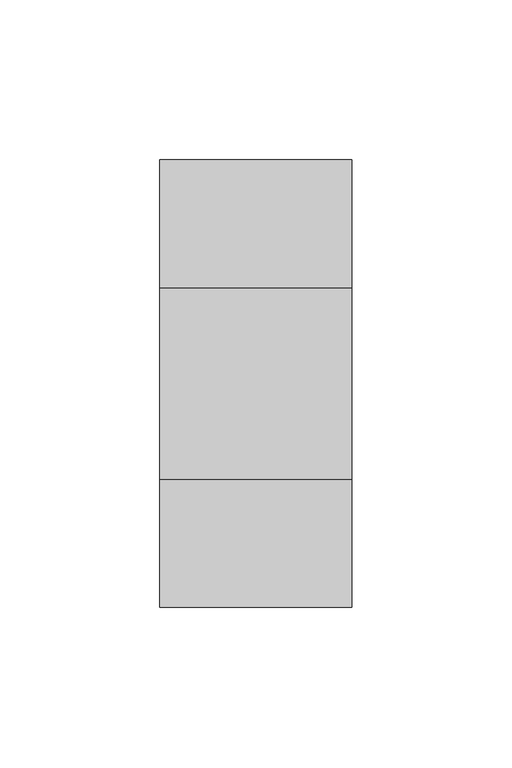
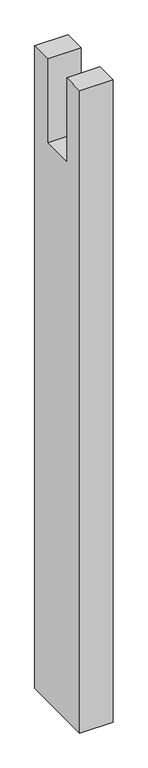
"""IFC4 building model written with IfcOpenShell, lengths in millimetres: proxy geometry, Modelos genéricos 52 : Modelos genéricos 11."""

import ifcopenshell
import ifcopenshell.guid

model = None  # the IFC model being written
_history = None  # IfcOwnerHistory: only IFC2X3 demands one
_inside = {}  # id of a spatial element -> (the spatial element, [elements in it])
_under = {}  # id of a project, library or spatial element -> (it, [spatial elements below it])
_declared = {}  # id of a project -> (the project, [libraries it declares])
_typed = {}  # id of a type object -> (the type object, [elements of that type])
_made_of = {}  # id of a material, layer set ... -> (it, [elements and type objects made of it])


def new_model(schema):
    """Start an empty IFC model of exactly this schema.

    Asked for "IFC4X3", IfcOpenShell would pick the latest addendum, in which some entities
    have other attributes; the version numbers below select the first issue.
    IFC2X3 requires an IfcOwnerHistory on every rooted entity: one is made here for all.
    """
    global model, _history
    if schema == "IFC4X3":
        model = ifcopenshell.file(schema_version=(4, 3, 0, 0))
    else:
        model = ifcopenshell.file(schema=schema)
    _inside.clear()
    _under.clear()
    _declared.clear()
    _typed.clear()
    _made_of.clear()
    _history = None
    if model.schema == "IFC2X3":
        org = make("IfcOrganization", Name="unknown")
        user = make(
            "IfcPersonAndOrganization",
            ThePerson=make("IfcPerson", FamilyName="unknown"),
            TheOrganization=org,
        )
        app = make(
            "IfcApplication",
            ApplicationDeveloper=org,
            Version="unknown",
            ApplicationFullName="unknown",
            ApplicationIdentifier="unknown",
        )
        _history = make(
            "IfcOwnerHistory",
            OwningUser=user,
            OwningApplication=app,
            ChangeAction="ADDED",
            CreationDate=0,
        )
    return model


def make(cls, **values):
    """One entity of the class cls with the attributes given. An attribute that is None is left unset."""
    return model.create_entity(
        cls, **{name: value for name, value in values.items() if value is not None}
    )


def rooted(cls, **values):
    """An entity with a GlobalId (a new one), such as an element, a storey or a relation."""
    return make(cls, GlobalId=ifcopenshell.guid.new(), OwnerHistory=_history, **values)


def si_unit(unit_type, name, prefix=None):
    """IfcSIUnit, for example si_unit("LENGTHUNIT", "METRE", prefix="MILLI")."""
    return make("IfcSIUnit", UnitType=unit_type, Prefix=prefix, Name=name)


def assignment(units):
    """IfcUnitAssignment: the units of a project."""
    return None if units is None else make("IfcUnitAssignment", Units=units)


def point(xyz):
    """IfcCartesianPoint."""
    return None if xyz is None else make("IfcCartesianPoint", Coordinates=xyz)


def direction(xyz):
    """IfcDirection."""
    return None if xyz is None else make("IfcDirection", DirectionRatios=xyz)


def frame(location, z_axis=None, x_axis=None):
    """IfcAxis2Placement3D, a coordinate frame: its origin and axes. An axis left out is left unset."""
    return make(
        "IfcAxis2Placement3D",
        Location=point(location),
        Axis=direction(z_axis),
        RefDirection=direction(x_axis),
    )


def origin():
    """The frame at (0, 0, 0) with its axes left unset."""
    return frame((0.0, 0.0, 0.0))


def place(relative_to, where):
    """IfcLocalPlacement: puts the frame where relative to a parent placement (None: the world)."""
    return make(
        "IfcLocalPlacement", PlacementRelTo=relative_to, RelativePlacement=where
    )


def context(
    kind, dimensions, precision=None, world=None, true_north=None, identifier=None
):
    """IfcGeometricRepresentationContext, for example the 3D "Model" context."""
    return make(
        "IfcGeometricRepresentationContext",
        ContextIdentifier=identifier,
        ContextType=kind,
        CoordinateSpaceDimension=dimensions,
        Precision=precision,
        WorldCoordinateSystem=world,
        TrueNorth=true_north,
    )


def project(units=None, contexts=None):
    """IfcProject with its units and contexts."""
    return rooted(
        "IfcProject",
        Name="project",
        RepresentationContexts=contexts,
        UnitsInContext=assignment(units),
    )


def spatial(cls, under=None, at=None, **own):
    """A site, building, storey or space (cls), placed at a placement, below another one or the project."""
    s = rooted(cls, ObjectPlacement=at, **own)
    if under is not None:
        _under.setdefault(under.id(), (under, []))[1].append(s)
    return s


def polyline(points):
    """IfcPolyline through the points."""
    return make("IfcPolyline", Points=[point(p) for p in points])


def outline(outer, holes=None, kind="AREA"):
    """IfcArbitraryClosedProfileDef: a profile drawn as a closed curve; with holes, ...WithVoids."""
    if holes is None:
        return make("IfcArbitraryClosedProfileDef", ProfileType=kind, OuterCurve=outer)
    return make(
        "IfcArbitraryProfileDefWithVoids",
        ProfileType=kind,
        OuterCurve=outer,
        InnerCurves=holes,
    )


def extrude(swept, where, along, depth):
    """IfcExtrudedAreaSolid: the profile swept, set in the frame where, extruded along a direction by depth."""
    return make(
        "IfcExtrudedAreaSolid",
        SweptArea=swept,
        Position=where,
        ExtrudedDirection=direction(along),
        Depth=depth,
    )


def shape(context_of_items, identifier, shape_type, items):
    """IfcShapeRepresentation: the items that make up one representation, for example the "Body"."""
    return make(
        "IfcShapeRepresentation",
        ContextOfItems=context_of_items,
        RepresentationIdentifier=identifier,
        RepresentationType=shape_type,
        Items=items,
    )


def source(mapping_origin, context_of_items, identifier, shape_type, items):
    """IfcRepresentationMap: a shape defined once, which mapped items show again and again."""
    return make(
        "IfcRepresentationMap",
        MappingOrigin=mapping_origin,
        MappedRepresentation=shape(context_of_items, identifier, shape_type, items),
    )


def transform(
    local_origin,
    x_axis=None,
    y_axis=None,
    z_axis=None,
    scale=None,
    scale2=None,
    scale3=None,
    uniform=True,
):
    """IfcCartesianTransformationOperator3D, or its non-uniform kind. x_axis, y_axis, z_axis: its Axis1, 2, 3."""
    if uniform:
        return make(
            "IfcCartesianTransformationOperator3D",
            Axis1=direction(x_axis),
            Axis2=direction(y_axis),
            LocalOrigin=point(local_origin),
            Scale=scale,
            Axis3=direction(z_axis),
        )
    return make(
        "IfcCartesianTransformationOperator3DnonUniform",
        Axis1=direction(x_axis),
        Axis2=direction(y_axis),
        LocalOrigin=point(local_origin),
        Scale=scale,
        Axis3=direction(z_axis),
        Scale2=scale2,
        Scale3=scale3,
    )


def mapped(mapping_source, mapping_target):
    """IfcMappedItem: shows the shape of a source again, moved by a transform."""
    return make(
        "IfcMappedItem", MappingSource=mapping_source, MappingTarget=mapping_target
    )


def made_of(thing, what):
    """Note that an element or type object is made of a material, layer set ...; save() writes the relation."""
    if what is not None:
        _made_of.setdefault(what.id(), (what, []))[1].append(thing)
    return thing


def element(
    cls,
    number,
    at=None,
    inside=None,
    cuts=None,
    type_object=None,
    material=None,
    context=None,
    identifier="Body",
    shape_type=None,
    held_by="IfcProductDefinitionShape",
    body=None,
    shapes=None,
    **own,
):
    """One element of the class cls, such as IfcWall. Its Tag is "e" and its number.

    at: its placement. inside: the storey or other place that contains it. cuts: it is an
    opening in that element (IfcRelVoidsElement). A single representation is given by context,
    identifier, shape_type and body (its items); several are given by shapes. held_by: the class
    of the entity that holds the representations. save() writes the other relations.
    """
    e = rooted(cls, Tag="e%d" % number, ObjectPlacement=at, **own)
    if body is not None:
        shapes = [shape(context, identifier, shape_type, body)]
    if shapes is not None:
        e.Representation = make(held_by, Representations=shapes)
    if inside is not None:
        _inside.setdefault(inside.id(), (inside, []))[1].append(e)
    if cuts is not None:
        rooted(
            "IfcRelVoidsElement", RelatingBuildingElement=cuts, RelatedOpeningElement=e
        )
    if type_object is not None:
        _typed.setdefault(type_object.id(), (type_object, []))[1].append(e)
    return made_of(e, material)


def aggregate(whole, parts):
    """IfcRelAggregates: a whole, such as a stair, and the parts it consists of."""
    return rooted("IfcRelAggregates", RelatingObject=whole, RelatedObjects=parts)


def save(model, path):
    """Write the relations noted so far, then the file.

    IfcRelAggregates (storeys below a building ...), IfcRelContainedInSpatialStructure (elements
    in a storey), IfcRelDefinesByType, IfcRelAssociatesMaterial and IfcRelDeclares: one each for
    every whole, place, type object, material and project.
    """
    for whole, parts in _under.values():
        aggregate(whole, parts)
    for where, things in _inside.values():
        rooted(
            "IfcRelContainedInSpatialStructure",
            RelatedElements=things,
            RelatingStructure=where,
        )
    for kind, things in _typed.values():
        rooted("IfcRelDefinesByType", RelatedObjects=things, RelatingType=kind)
    for what, things in _made_of.values():
        rooted("IfcRelAssociatesMaterial", RelatedObjects=things, RelatingMaterial=what)
    for by, libraries in _declared.values():
        rooted("IfcRelDeclares", RelatingContext=by, RelatedDefinitions=libraries)
    model.write(path)


def generic_models_5950458f(model_context):
    return source(origin(), model_context, "Body", "SweptSolid", [
        extrude(outline(polyline([(2018.6238165, 3160.0), (1878.6238165, 3160.0), (1878.6238165, 4380.0), (1918.6238165, 4380.0), (1918.6238165, 4220.0), (1978.6238165, 4220.0), (1978.6238165, 4380.0), (2018.6238165, 4380.0), (2018.6238165, 3160.0)])), frame((-5376.5527533, 0.0, 0.0), z_axis=(1.0, 0.0, 0.0), x_axis=(0.0, 1.0, 0.0)), (0.0, 0.0, 1.0), 60.0),
    ])


if __name__ == "__main__":
    model = new_model("IFC4")
    model_context = context("Model", 3, world=origin())
    ifc_project = project(units=[si_unit("LENGTHUNIT", "METRE", prefix="MILLI")], contexts=[model_context])
    site = spatial("IfcSite", under=ifc_project)
    building = spatial("IfcBuilding", under=site)
    placement = place(None, origin())
    generic_models_shape = generic_models_5950458f(model_context)
    element("IfcBuildingElementProxy", 1, Name="Modelos genéricos 52 : Modelos genéricos 11", ObjectType="Modelos genéricos 52 : Modelos genéricos 11", at=placement, inside=building, context=model_context, shape_type="MappedRepresentation", body=[
        mapped(generic_models_shape, transform((0.0, 0.0, 0.0), x_axis=(1.0, 0.0, 0.0), y_axis=(0.0, 1.0, 0.0), z_axis=(0.0, 0.0, 1.0))),
    ])
    save(model, "model.ifc")
